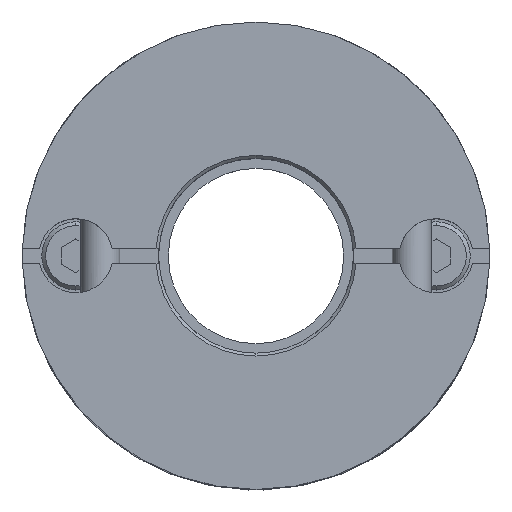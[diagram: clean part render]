
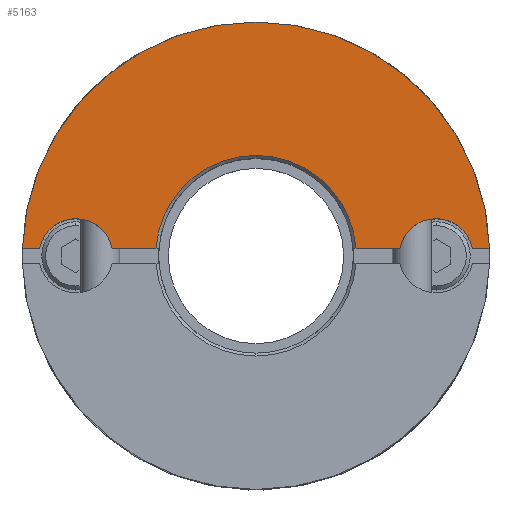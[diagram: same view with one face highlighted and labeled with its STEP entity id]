
A CAD part, top view. The second image highlights one B-rep face of the part: STEP entity #5163.
In plain terms, the highlighted planar face has unit normal (0, 0, 1).
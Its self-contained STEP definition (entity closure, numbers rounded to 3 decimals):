
#1951=CARTESIAN_POINT('',(0.,10.3,19.3));
#1952=VERTEX_POINT('',#1951);
#1961=CARTESIAN_POINT('',(-10.273,0.75,19.3));
#1962=VERTEX_POINT('',#1961);
#1963=CARTESIAN_POINT('',(0.,0.,19.3));
#1964=DIRECTION('',(0.0,0.0,1.0));
#1965=DIRECTION('',(0.0,-1.0,0.0));
#1966=AXIS2_PLACEMENT_3D('',#1963,#1964,#1965);
#1967=CIRCLE('',#1966,10.3);
#1968=EDGE_CURVE('',#1952,#1962,#1967,.T.);
#2140=CARTESIAN_POINT('',(0.,24.,19.3));
#2141=VERTEX_POINT('',#2140);
#2225=CARTESIAN_POINT('',(-23.988,0.75,19.3));
#2226=VERTEX_POINT('',#2225);
#2233=CARTESIAN_POINT('',(0.,0.,19.3));
#2234=DIRECTION('',(0.0,0.0,-1.0));
#2235=DIRECTION('',(0.0,1.0,0.0));
#2236=AXIS2_PLACEMENT_3D('',#2233,#2234,#2235);
#2237=CIRCLE('',#2236,24.0);
#2238=EDGE_CURVE('',#2226,#2141,#2237,.T.);
#2669=CARTESIAN_POINT('',(-18.5,3.8,19.3));
#2670=VERTEX_POINT('',#2669);
#2679=CARTESIAN_POINT('',(-22.225,0.75,19.3));
#2680=VERTEX_POINT('',#2679);
#2681=CARTESIAN_POINT('',(-18.5,0.,19.3));
#2682=DIRECTION('',(0.0,0.0,-1.0));
#2683=DIRECTION('',(0.0,1.0,0.0));
#2684=AXIS2_PLACEMENT_3D('',#2681,#2682,#2683);
#2685=CIRCLE('',#2684,3.8);
#2686=EDGE_CURVE('',#2680,#2670,#2685,.T.);
#2955=CARTESIAN_POINT('',(18.5,3.8,19.3));
#2956=VERTEX_POINT('',#2955);
#2965=CARTESIAN_POINT('',(14.775,0.75,19.3));
#2966=VERTEX_POINT('',#2965);
#2967=CARTESIAN_POINT('',(18.5,0.,19.3));
#2968=DIRECTION('',(0.0,0.0,-1.0));
#2969=DIRECTION('',(0.0,1.0,0.0));
#2970=AXIS2_PLACEMENT_3D('',#2967,#2968,#2969);
#2971=CIRCLE('',#2970,3.8);
#2972=EDGE_CURVE('',#2966,#2956,#2971,.T.);
#4022=CARTESIAN_POINT('',(22.225,0.75,19.3));
#4023=VERTEX_POINT('',#4022);
#4030=CARTESIAN_POINT('',(18.5,0.,19.3));
#4031=DIRECTION('',(0.0,0.0,-1.0));
#4032=DIRECTION('',(0.0,1.0,0.0));
#4033=AXIS2_PLACEMENT_3D('',#4030,#4031,#4032);
#4034=CIRCLE('',#4033,3.8);
#4035=EDGE_CURVE('',#2956,#4023,#4034,.T.);
#4290=CARTESIAN_POINT('',(-14.775,0.75,19.3));
#4291=VERTEX_POINT('',#4290);
#4298=CARTESIAN_POINT('',(-18.5,0.,19.3));
#4299=DIRECTION('',(0.0,0.0,-1.0));
#4300=DIRECTION('',(0.0,1.0,0.0));
#4301=AXIS2_PLACEMENT_3D('',#4298,#4299,#4300);
#4302=CIRCLE('',#4301,3.8);
#4303=EDGE_CURVE('',#2670,#4291,#4302,.T.);
#4400=CARTESIAN_POINT('',(-14.775,0.75,19.3));
#4401=DIRECTION('',(1.0,0.0,0.0));
#4402=VECTOR('',#4401,4.502);
#4403=LINE('',#4400,#4402);
#4404=EDGE_CURVE('',#4291,#1962,#4403,.T.);
#4467=CARTESIAN_POINT('',(10.273,0.75,19.3));
#4468=VERTEX_POINT('',#4467);
#4469=CARTESIAN_POINT('',(10.273,0.75,19.3));
#4470=DIRECTION('',(1.0,0.0,0.0));
#4471=VECTOR('',#4470,4.502);
#4472=LINE('',#4469,#4471);
#4473=EDGE_CURVE('',#4468,#2966,#4472,.T.);
#5042=CARTESIAN_POINT('',(23.988,0.75,19.3));
#5043=VERTEX_POINT('',#5042);
#5050=CARTESIAN_POINT('',(22.225,0.75,19.3));
#5051=DIRECTION('',(1.0,0.0,0.0));
#5052=VECTOR('',#5051,1.763);
#5053=LINE('',#5050,#5052);
#5054=EDGE_CURVE('',#4023,#5043,#5053,.T.);
#5127=CARTESIAN_POINT('',(0.,2.182,19.3));
#5128=DIRECTION('',(0.0,0.0,1.0));
#5129=DIRECTION('',(0.0,1.0,0.0));
#5130=AXIS2_PLACEMENT_3D('',#5127,#5128,#5129);
#5131=PLANE('',#5130);
#5132=ORIENTED_EDGE('',*,*,#2972,.T.);
#5133=ORIENTED_EDGE('',*,*,#4035,.T.);
#5134=ORIENTED_EDGE('',*,*,#5054,.T.);
#5135=CARTESIAN_POINT('',(0.,0.,19.3));
#5136=DIRECTION('',(0.0,0.0,-1.0));
#5137=DIRECTION('',(0.0,1.0,0.0));
#5138=AXIS2_PLACEMENT_3D('',#5135,#5136,#5137);
#5139=CIRCLE('',#5138,24.0);
#5140=EDGE_CURVE('',#2141,#5043,#5139,.T.);
#5141=ORIENTED_EDGE('',*,*,#5140,.F.);
#5142=ORIENTED_EDGE('',*,*,#2238,.F.);
#5143=CARTESIAN_POINT('',(-23.988,0.75,19.3));
#5144=DIRECTION('',(1.0,0.0,0.0));
#5145=VECTOR('',#5144,1.763);
#5146=LINE('',#5143,#5145);
#5147=EDGE_CURVE('',#2226,#2680,#5146,.T.);
#5148=ORIENTED_EDGE('',*,*,#5147,.T.);
#5149=ORIENTED_EDGE('',*,*,#2686,.T.);
#5150=ORIENTED_EDGE('',*,*,#4303,.T.);
#5151=ORIENTED_EDGE('',*,*,#4404,.T.);
#5152=ORIENTED_EDGE('',*,*,#1968,.F.);
#5153=CARTESIAN_POINT('',(0.,0.,19.3));
#5154=DIRECTION('',(0.0,0.0,1.0));
#5155=DIRECTION('',(0.0,-1.0,0.0));
#5156=AXIS2_PLACEMENT_3D('',#5153,#5154,#5155);
#5157=CIRCLE('',#5156,10.3);
#5158=EDGE_CURVE('',#4468,#1952,#5157,.T.);
#5159=ORIENTED_EDGE('',*,*,#5158,.F.);
#5160=ORIENTED_EDGE('',*,*,#4473,.T.);
#5161=EDGE_LOOP('',(#5132,#5133,#5134,#5141,#5142,#5148,#5149,#5150,#5151,#5152,#5159,#5160));
#5162=FACE_OUTER_BOUND('',#5161,.T.);
#5163=ADVANCED_FACE('',(#5162),#5131,.T.);
